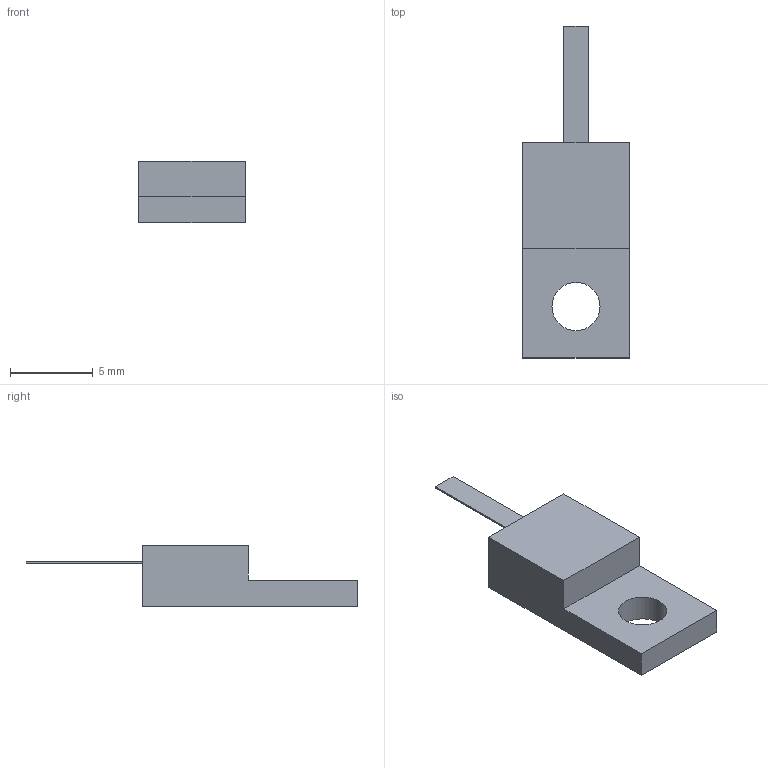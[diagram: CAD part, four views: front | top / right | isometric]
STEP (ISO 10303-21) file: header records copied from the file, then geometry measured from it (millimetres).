
FILE_DESCRIPTION(('STEP AP203'), '1');
FILE_NAME('P1-170-100-19', '', ('UNSPECIFIED'), ('UNSPECIFIED'), 'ASCON STEP Converter 1.6', 'ASCON Math Kernel', '');
FILE_SCHEMA(('CONFIG_CONTROL_DESIGN'));
Length unit declared in the file: millimetre
Bounding box: 6.4 x 20 x 3.7 mm (x, y, z)
Volume: 209.6 mm3; surface area: 306 mm2
Topology: 1 solids, 1 shells, 14 faces, 33 edges, 22 vertices
Faces by surface type: plane 13, cylinder 1
Full cylindrical faces by diameter (mm): 2.9 x1
Entity records: 554 total; most frequent: CARTESIAN_POINT 69, DIRECTION 64, ORIENTED_EDGE 64, EDGE_CURVE 32, LINE 30, VECTOR 30, VERTEX_POINT 22, EDGE_LOOP 18
